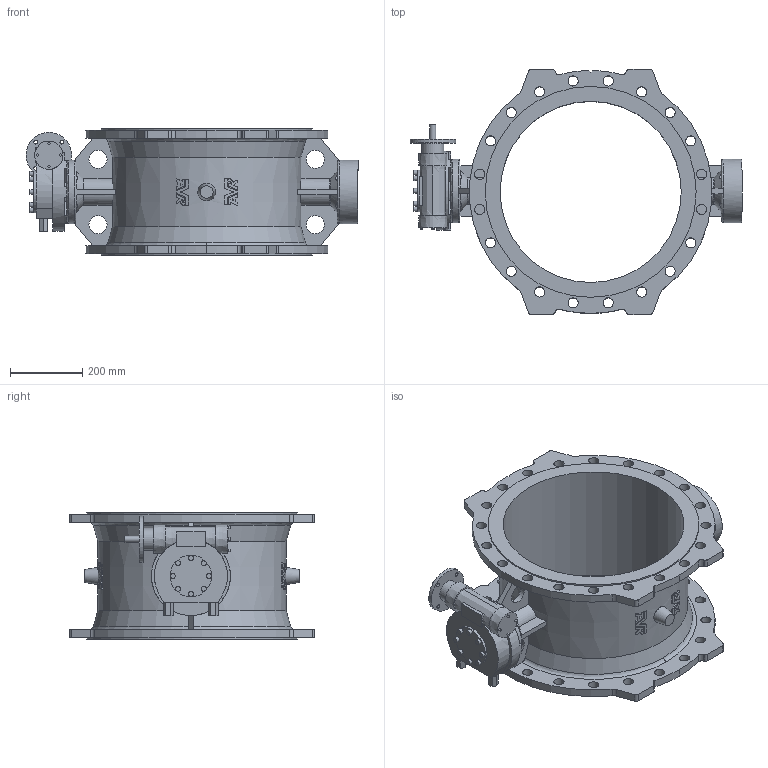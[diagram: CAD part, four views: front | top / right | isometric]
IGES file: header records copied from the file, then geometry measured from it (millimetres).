
Start section: SolidWorks IGES file using analytic representation for surfaces
Global section: file name: \\avksan2\techshare\PBM outline export from Enovia\O_756_102_DN500_0XX_AA0_igs.igs; native system: SolidWorks 2012; preprocessor: SolidWorks 2012; author: pbm; date: 160309.124644; units: millimetre
Bounding box: 916.4 x 676 x 350 mm (x, y, z)
Surface area: 2208628.4 mm2 (no closed solid volume)
Topology: 0 solids, 0 shells, 677 faces, 3780 edges, 3645 vertices
Faces by surface type: bspline 469, revolution 208
